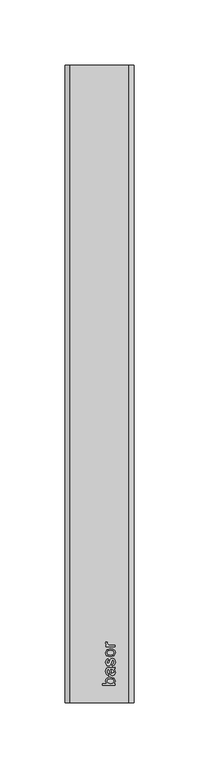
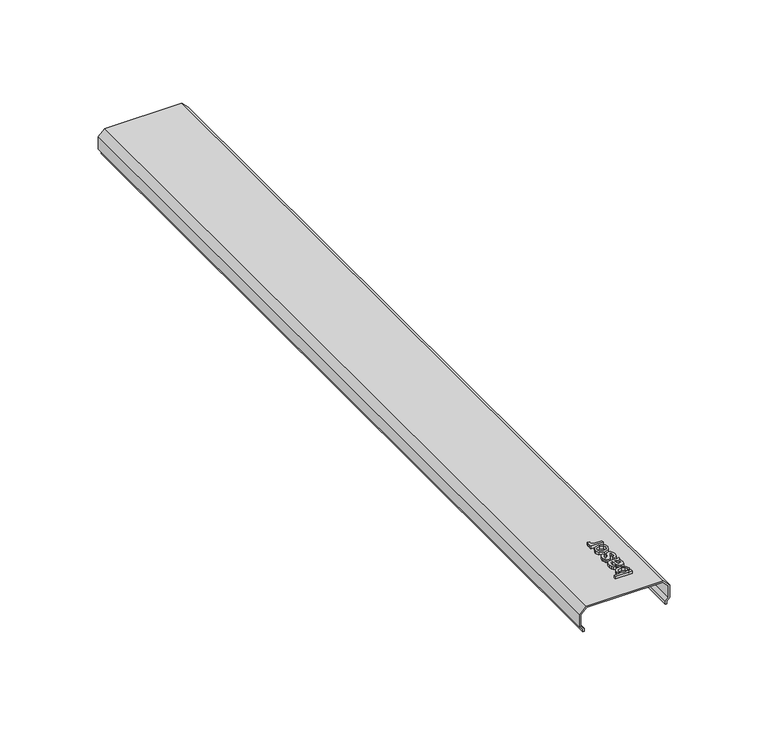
"""IFC4 building model written with IfcOpenShell, lengths in millimetres: proxy geometry, Cable_Tray_Cover_T ERE 50_Basortray : Basortray TERE 50-GS."""

from ifc_helpers import new_model, si_unit, frame, origin, place, context, project, spatial, polyline, outline, extrude, source, transform, mapped, element, save


def generic_models_0b94fb28(model_context):
    return source(origin(), model_context, "Body", "SweptSolid", [
        extrude(outline(polyline([(12.2098552, 14.8513938), (12.2098552, 13.6206246), (2.3637014, 13.6206246), (2.3637014, 14.8513938), (6.0151437, 14.8513938), (4.8252399, 16.7840861), (5.0932687, 18.0172592), (5.8468745, 18.97399), (7.0187495, 19.5617303), (8.4862975, 19.7744707), (11.3516822, 18.8934611), (12.3637014, 16.7768746), (11.0584129, 14.8513938), (12.2098552, 14.8513938)]), holes=[polyline([(8.5439899, 14.8513938), (10.2651437, 15.1879323), (11.1329322, 16.6711053), (10.4935091, 17.988413), (8.5872591, 18.5437015), (6.6737975, 18.0112496), (6.0560091, 16.72399), (6.6954322, 15.4066823), (8.5439899, 14.8513938)])]), frame((0.0, 0.0, 1.5), z_axis=(0.0, 0.0, 1.0), x_axis=(1.0, 0.0, 0.0)), (0.0, 0.0, 1.0), 1.65),
        extrude(outline(polyline([(11.2867783, 25.7744707), (12.1209129, 24.5809611), (12.3637014, 23.2624515), (11.7795668, 21.4751919), (10.2867783, 20.8513938), (9.3132206, 21.0869707), (8.6064899, 21.7059611), (8.2026437, 22.56774), (8.0175475, 23.6326438), (7.5944706, 25.7672592), (6.4117783, 25.4355284), (6.0560091, 24.0749515), (6.2927879, 22.8297592), (7.1329322, 22.2360092), (6.979086, 21.00524), (5.7771629, 21.5376919), (5.072836, 22.6098073), (4.8252399, 24.2336053), (5.0439899, 25.7251919), (5.5932687, 26.56774), (6.4286052, 26.9451438), (7.5055283, 27.00524), (9.0367783, 27.00524), (11.1749995, 27.06774), (12.2098552, 27.3129323), (12.2098552, 26.082163), (11.2867783, 25.7744707)]), holes=[polyline([(8.9995187, 25.770865), (9.2026437, 23.7888938), (9.4021629, 22.7299996), (11.1329322, 23.5244707), (10.838461, 24.769663), (10.1257206, 25.5725477), (8.9995187, 25.770865)])]), frame((0.0, 0.0, 1.5), z_axis=(0.0, 0.0, 1.0), x_axis=(1.0, 0.0, 0.0)), (0.0, 0.0, 1.0), 1.65),
        extrude(outline(polyline([(10.0560091, 28.2360092), (9.9021629, 29.4667784), (10.8156245, 30.03649), (11.1329322, 31.3417784), (10.8420668, 32.5965861), (10.1593745, 33.00524), (9.2555283, 31.3273553), (8.6533649, 29.47399), (7.9502399, 28.6650957), (6.9574514, 28.3898553), (6.0403841, 28.6110092), (5.3396629, 29.2143746), (4.9754802, 29.9968265), (4.8252399, 31.0557207), (5.0668264, 32.5533169), (5.7206725, 33.50524), (6.8252399, 33.9283169), (6.979086, 32.6975477), (6.2999995, 32.2348073), (6.0560091, 31.1518746), (6.2891822, 29.97399), (7.7242783, 31.28649), (8.3036052, 33.0929803), (8.9598552, 33.9319227), (10.0295668, 34.2360092), (11.2074514, 33.879038), (12.0620187, 32.84899), (12.3637014, 31.3249515), (11.7819706, 29.1783169), (10.0560091, 28.2360092)])), frame((0.0, 0.0, 1.5), z_axis=(0.0, 0.0, 1.0), x_axis=(1.0, 0.0, 0.0)), (0.0, 0.0, 1.0), 1.65),
        extrude(outline(polyline([(8.5944706, 35.3129323), (5.6257206, 36.3778361), (4.8252399, 38.5461053), (5.7999995, 40.8718265), (8.4935091, 41.7744707), (10.6834129, 41.3754323), (11.9225956, 40.2131727), (12.3637014, 38.5461053), (11.3925475, 36.2059611), (8.5944706, 35.3129323)]), holes=[polyline([(8.5920668, 36.5437015), (10.4995187, 37.113413), (11.1329322, 38.5461053), (10.4959129, 39.97399), (8.5536052, 40.5437015), (6.6894225, 39.9703842), (6.0560091, 38.5461053), (6.6870187, 37.113413), (8.5920668, 36.5437015)])]), frame((0.0, 0.0, 1.5), z_axis=(0.0, 0.0, 1.0), x_axis=(1.0, 0.0, 0.0)), (0.0, 0.0, 1.0), 1.65),
        extrude(outline(polyline([(12.2098552, 43.1590861), (4.979086, 43.1590861), (4.979086, 44.2360092), (6.0487975, 44.2360092), (5.0632206, 45.0004323), (4.8252399, 45.769663), (5.2050475, 47.00524), (6.3084129, 46.5941823), (6.0560091, 45.7287977), (6.9718745, 44.5893746), (8.4093745, 44.3898553), (12.2098552, 44.3898553), (12.2098552, 43.1590861)])), frame((0.0, 0.0, 1.5), z_axis=(0.0, 0.0, 1.0), x_axis=(1.0, 0.0, 0.0)), (0.0, 0.0, 1.0), 1.65),
        extrude(outline(polyline([(-13.5, 24.6511298), (-11.9262105, 24.6511298), (-10.0773403, 26.5), (-2.3067935, 26.5), (1.5, 22.6932065), (1.5, -22.6932065), (-2.3067935, -26.5), (-10.0773403, -26.5), (-11.9262105, -24.6511298), (-13.5, -24.6511298), (-13.5, -23.8511298), (-11.5948396, -23.8511298), (-9.7459695, -25.7), (-2.6381643, -25.7), (0.7, -22.3618357), (0.7, 22.3618357), (-2.6381643, 25.7), (-9.7459695, 25.7), (-11.5948396, 23.8511298), (-13.5, 23.8511298), (-13.5, 24.6511298)])), frame((0.0, 0.0, 0.0), z_axis=(0.0, 1.0, 0.0), x_axis=(0.0, 0.0, 1.0)), (0.0, 0.0, 1.0), 490.0),
    ])


if __name__ == "__main__":
    model = new_model("IFC4")
    model_context = context("Model", 3, world=origin())
    ifc_project = project(units=[si_unit("LENGTHUNIT", "METRE", prefix="MILLI")], contexts=[model_context])
    site = spatial("IfcSite", under=ifc_project)
    building = spatial("IfcBuilding", under=site)
    placement = place(None, origin())
    generic_models_shape = generic_models_0b94fb28(model_context)
    element("IfcBuildingElementProxy", 1, Name="Cable_Tray_Cover_T ERE 50_Basortray : Basortray TERE 50-GS", ObjectType="Cable_Tray_Cover_T ERE 50_Basortray : Basortray TERE 50-GS", at=placement, inside=building, context=model_context, shape_type="MappedRepresentation", body=[
        mapped(generic_models_shape, transform((0.0, 0.0, 0.0), x_axis=(1.0, 0.0, 0.0), y_axis=(0.0, 1.0, 0.0), z_axis=(0.0, 0.0, 1.0))),
    ])
    save(model, "model.ifc")
